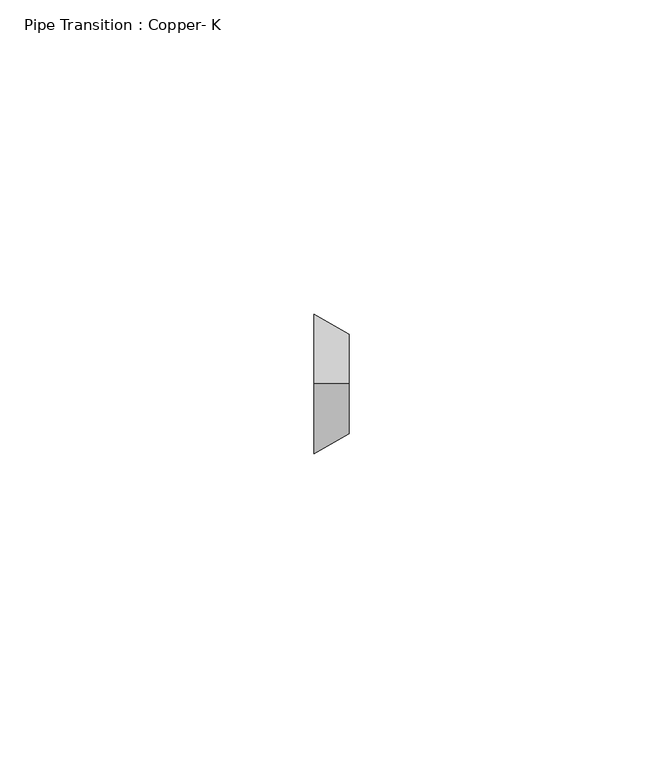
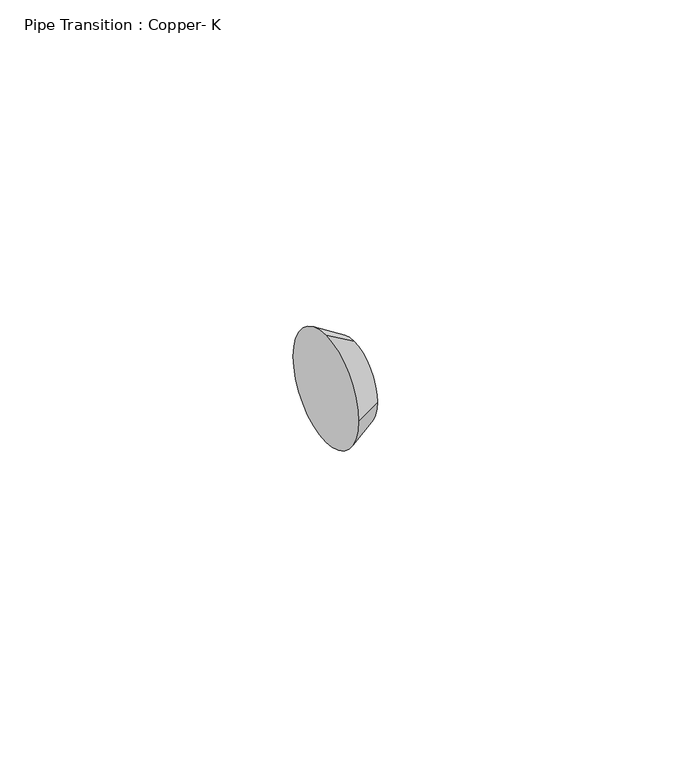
"""IFC4 building model written with IfcOpenShell, lengths in millimetres: pipe fitting geometry, Pipe Transition : Copper- K."""

import ifcopenshell
import ifcopenshell.guid

model = None  # the IFC model being written
_history = None  # IfcOwnerHistory: only IFC2X3 demands one
_inside = {}  # id of a spatial element -> (the spatial element, [elements in it])
_under = {}  # id of a project, library or spatial element -> (it, [spatial elements below it])
_declared = {}  # id of a project -> (the project, [libraries it declares])
_typed = {}  # id of a type object -> (the type object, [elements of that type])
_made_of = {}  # id of a material, layer set ... -> (it, [elements and type objects made of it])


def new_model(schema):
    """Start an empty IFC model of exactly this schema.

    Asked for "IFC4X3", IfcOpenShell would pick the latest addendum, in which some entities
    have other attributes; the version numbers below select the first issue.
    IFC2X3 requires an IfcOwnerHistory on every rooted entity: one is made here for all.
    """
    global model, _history
    if schema == "IFC4X3":
        model = ifcopenshell.file(schema_version=(4, 3, 0, 0))
    else:
        model = ifcopenshell.file(schema=schema)
    _inside.clear()
    _under.clear()
    _declared.clear()
    _typed.clear()
    _made_of.clear()
    _history = None
    if model.schema == "IFC2X3":
        org = make("IfcOrganization", Name="unknown")
        user = make(
            "IfcPersonAndOrganization",
            ThePerson=make("IfcPerson", FamilyName="unknown"),
            TheOrganization=org,
        )
        app = make(
            "IfcApplication",
            ApplicationDeveloper=org,
            Version="unknown",
            ApplicationFullName="unknown",
            ApplicationIdentifier="unknown",
        )
        _history = make(
            "IfcOwnerHistory",
            OwningUser=user,
            OwningApplication=app,
            ChangeAction="ADDED",
            CreationDate=0,
        )
    return model


def make(cls, **values):
    """One entity of the class cls with the attributes given. An attribute that is None is left unset."""
    return model.create_entity(
        cls, **{name: value for name, value in values.items() if value is not None}
    )


def rooted(cls, **values):
    """An entity with a GlobalId (a new one), such as an element, a storey or a relation."""
    return make(cls, GlobalId=ifcopenshell.guid.new(), OwnerHistory=_history, **values)


def si_unit(unit_type, name, prefix=None):
    """IfcSIUnit, for example si_unit("LENGTHUNIT", "METRE", prefix="MILLI")."""
    return make("IfcSIUnit", UnitType=unit_type, Prefix=prefix, Name=name)


def assignment(units):
    """IfcUnitAssignment: the units of a project."""
    return None if units is None else make("IfcUnitAssignment", Units=units)


def point(xyz):
    """IfcCartesianPoint."""
    return None if xyz is None else make("IfcCartesianPoint", Coordinates=xyz)


def direction(xyz):
    """IfcDirection."""
    return None if xyz is None else make("IfcDirection", DirectionRatios=xyz)


def frame(location, z_axis=None, x_axis=None):
    """IfcAxis2Placement3D, a coordinate frame: its origin and axes. An axis left out is left unset."""
    return make(
        "IfcAxis2Placement3D",
        Location=point(location),
        Axis=direction(z_axis),
        RefDirection=direction(x_axis),
    )


def origin():
    """The frame at (0, 0, 0) with its axes left unset."""
    return frame((0.0, 0.0, 0.0))


def place(relative_to, where):
    """IfcLocalPlacement: puts the frame where relative to a parent placement (None: the world)."""
    return make(
        "IfcLocalPlacement", PlacementRelTo=relative_to, RelativePlacement=where
    )


def context(
    kind, dimensions, precision=None, world=None, true_north=None, identifier=None
):
    """IfcGeometricRepresentationContext, for example the 3D "Model" context."""
    return make(
        "IfcGeometricRepresentationContext",
        ContextIdentifier=identifier,
        ContextType=kind,
        CoordinateSpaceDimension=dimensions,
        Precision=precision,
        WorldCoordinateSystem=world,
        TrueNorth=true_north,
    )


def project(units=None, contexts=None):
    """IfcProject with its units and contexts."""
    return rooted(
        "IfcProject",
        Name="project",
        RepresentationContexts=contexts,
        UnitsInContext=assignment(units),
    )


def spatial(cls, under=None, at=None, **own):
    """A site, building, storey or space (cls), placed at a placement, below another one or the project."""
    s = rooted(cls, ObjectPlacement=at, **own)
    if under is not None:
        _under.setdefault(under.id(), (under, []))[1].append(s)
    return s


def polyline(points):
    """IfcPolyline through the points."""
    return make("IfcPolyline", Points=[point(p) for p in points])


def circle_curve(where, radius):
    """IfcCircle in the frame where."""
    return make("IfcCircle", Position=where, Radius=radius)


def shape(context_of_items, identifier, shape_type, items):
    """IfcShapeRepresentation: the items that make up one representation, for example the "Body"."""
    return make(
        "IfcShapeRepresentation",
        ContextOfItems=context_of_items,
        RepresentationIdentifier=identifier,
        RepresentationType=shape_type,
        Items=items,
    )


def source(mapping_origin, context_of_items, identifier, shape_type, items):
    """IfcRepresentationMap: a shape defined once, which mapped items show again and again."""
    return make(
        "IfcRepresentationMap",
        MappingOrigin=mapping_origin,
        MappedRepresentation=shape(context_of_items, identifier, shape_type, items),
    )


def transform(
    local_origin,
    x_axis=None,
    y_axis=None,
    z_axis=None,
    scale=None,
    scale2=None,
    scale3=None,
    uniform=True,
):
    """IfcCartesianTransformationOperator3D, or its non-uniform kind. x_axis, y_axis, z_axis: its Axis1, 2, 3."""
    if uniform:
        return make(
            "IfcCartesianTransformationOperator3D",
            Axis1=direction(x_axis),
            Axis2=direction(y_axis),
            LocalOrigin=point(local_origin),
            Scale=scale,
            Axis3=direction(z_axis),
        )
    return make(
        "IfcCartesianTransformationOperator3DnonUniform",
        Axis1=direction(x_axis),
        Axis2=direction(y_axis),
        LocalOrigin=point(local_origin),
        Scale=scale,
        Axis3=direction(z_axis),
        Scale2=scale2,
        Scale3=scale3,
    )


def mapped(mapping_source, mapping_target):
    """IfcMappedItem: shows the shape of a source again, moved by a transform."""
    return make(
        "IfcMappedItem", MappingSource=mapping_source, MappingTarget=mapping_target
    )


def made_of(thing, what):
    """Note that an element or type object is made of a material, layer set ...; save() writes the relation."""
    if what is not None:
        _made_of.setdefault(what.id(), (what, []))[1].append(thing)
    return thing


def element(
    cls,
    number,
    at=None,
    inside=None,
    cuts=None,
    type_object=None,
    material=None,
    context=None,
    identifier="Body",
    shape_type=None,
    held_by="IfcProductDefinitionShape",
    body=None,
    shapes=None,
    **own,
):
    """One element of the class cls, such as IfcWall. Its Tag is "e" and its number.

    at: its placement. inside: the storey or other place that contains it. cuts: it is an
    opening in that element (IfcRelVoidsElement). A single representation is given by context,
    identifier, shape_type and body (its items); several are given by shapes. held_by: the class
    of the entity that holds the representations. save() writes the other relations.
    """
    e = rooted(cls, Tag="e%d" % number, ObjectPlacement=at, **own)
    if body is not None:
        shapes = [shape(context, identifier, shape_type, body)]
    if shapes is not None:
        e.Representation = make(held_by, Representations=shapes)
    if inside is not None:
        _inside.setdefault(inside.id(), (inside, []))[1].append(e)
    if cuts is not None:
        rooted(
            "IfcRelVoidsElement", RelatingBuildingElement=cuts, RelatedOpeningElement=e
        )
    if type_object is not None:
        _typed.setdefault(type_object.id(), (type_object, []))[1].append(e)
    return made_of(e, material)


def aggregate(whole, parts):
    """IfcRelAggregates: a whole, such as a stair, and the parts it consists of."""
    return rooted("IfcRelAggregates", RelatingObject=whole, RelatedObjects=parts)


def save(model, path):
    """Write the relations noted so far, then the file.

    IfcRelAggregates (storeys below a building ...), IfcRelContainedInSpatialStructure (elements
    in a storey), IfcRelDefinesByType, IfcRelAssociatesMaterial and IfcRelDeclares: one each for
    every whole, place, type object, material and project.
    """
    for whole, parts in _under.values():
        aggregate(whole, parts)
    for where, things in _inside.values():
        rooted(
            "IfcRelContainedInSpatialStructure",
            RelatedElements=things,
            RelatingStructure=where,
        )
    for kind, things in _typed.values():
        rooted("IfcRelDefinesByType", RelatedObjects=things, RelatingType=kind)
    for what, things in _made_of.values():
        rooted("IfcRelAssociatesMaterial", RelatedObjects=things, RelatingMaterial=what)
    for by, libraries in _declared.values():
        rooted("IfcRelDeclares", RelatingContext=by, RelatedDefinitions=libraries)
    model.write(path)


def plane_surface(at):
    """IfcPlane: the flat surface through the origin of the frame at, square to its z axis."""
    return make("IfcPlane", Position=at)


def revolved_surface(curve, axis_point, axis_direction):
    """IfcSurfaceOfRevolution: the curve turned about the line through axis_point along axis_direction."""
    return make(
        "IfcSurfaceOfRevolution",
        SweptCurve=make("IfcArbitraryOpenProfileDef", ProfileType="CURVE", Curve=curve),
        AxisPosition=make("IfcAxis1Placement", Location=point(axis_point), Axis=direction(axis_direction)),
    )


def advanced_brep(points, edges, surfaces, faces):
    """IfcAdvancedBrep: a solid bounded by faces that lie on surfaces and meet in shared edges.

    An edge is (start, end): straight between two places in points (the first is 0);
    or (start, end, curve); or (start, end, curve, False) where it runs against its curve.
    A face is (place in surfaces, loops), or (place, loops, False) where it looks against
    its surface's normal. A loop lists edges by number (the first is 1), with a minus sign
    where the edge is run from its end to its start. The first loop is the outer one.
    """
    corners = [point(p) for p in points]
    vertices = [make("IfcVertexPoint", VertexGeometry=c) for c in corners]
    made = []
    for start, end, *more in edges:
        made.append(
            make(
                "IfcEdgeCurve",
                EdgeStart=vertices[start],
                EdgeEnd=vertices[end],
                EdgeGeometry=more[0] if more else make("IfcPolyline", Points=[corners[start], corners[end]]),
                SameSense=more[1] if len(more) > 1 else True,
            )
        )
    hull = []
    for where, loops, *sense in faces:
        bounds = []
        for j, loop in enumerate(loops):
            ring = [make("IfcOrientedEdge", EdgeElement=made[abs(k) - 1], Orientation=k > 0) for k in loop]
            bounds.append(
                make(
                    "IfcFaceOuterBound" if j == 0 else "IfcFaceBound",
                    Bound=make("IfcEdgeLoop", EdgeList=ring),
                    Orientation=True,
                )
            )
        hull.append(make("IfcAdvancedFace", Bounds=bounds, FaceSurface=surfaces[where], SameSense=sense[0] if sense else True))
    return make("IfcAdvancedBrep", Outer=make("IfcClosedShell", CfsFaces=hull))


def pipe_transition_copper_k_859ff352(model_context):
    return source(origin(), model_context, "Body", "AdvancedBrep", [
        advanced_brep(
        [(5.55625, 0.0, 7.9375), (5.55625, -7.9375, 0.0), (5.55625, 0.0, -7.9375), (5.55625, 7.9375, 0.0), (0.0, 0.0, 11.1125), (0.0, 11.1125, 0.0), (0.0, 0.0, -11.1125), (0.0, -11.1125, 0.0)],
        [
            (0, 1, circle_curve(frame((5.55625, 0.0, 0.0), z_axis=(1.0, 0.0, 0.0), x_axis=(0.0, 0.0, 1.0)), 7.9375)),
            (1, 2, circle_curve(frame((5.55625, 0.0, 0.0), z_axis=(1.0, 0.0, 0.0), x_axis=(0.0, -1.0, 0.0)), 7.9375)),
            (2, 3, circle_curve(frame((5.55625, 0.0, 0.0), z_axis=(1.0, 0.0, 0.0), x_axis=(0.0, 0.0, -1.0)), 7.9375)),
            (3, 0, circle_curve(frame((5.55625, 0.0, 0.0), z_axis=(1.0, 0.0, 0.0), x_axis=(0.0, 1.0, 0.0)), 7.9375)),
            (4, 5, circle_curve(frame((0.0, 0.0, 0.0), z_axis=(-1.0, 0.0, 0.0), x_axis=(0.0, 1.0, 0.0)), 11.1125)),
            (5, 6, circle_curve(frame((0.0, 0.0, 0.0), z_axis=(-1.0, 0.0, 0.0), x_axis=(0.0, 0.0, -1.0)), 11.1125)),
            (6, 7, circle_curve(frame((0.0, 0.0, 0.0), z_axis=(-1.0, 0.0, 0.0), x_axis=(0.0, -1.0, 0.0)), 11.1125)),
            (7, 4, circle_curve(frame((0.0, 0.0, 0.0), z_axis=(-1.0, 0.0, 0.0), x_axis=(0.0, 0.0, 1.0)), 11.1125)),
            (7, 1),
            (0, 4),
            (6, 2),
            (5, 3),
        ],
        [
            plane_surface(frame((5.55625, 0.0, 0.0), z_axis=(1.0, 0.0, 0.0), x_axis=(0.0, -1.0, 0.0))),
            plane_surface(frame((0.0, 0.0, 0.0), z_axis=(-1.0, 0.0, 0.0), x_axis=(0.0, -1.0, 0.0))),
            revolved_surface(polyline([(5.556249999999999, 0.0, 7.937500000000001), (0.0, 0.0, 11.1125)]), (19.446875, 0.0, 0.0), (-1.0, 0.0, 0.0)),
            revolved_surface(polyline([(5.556249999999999, -7.937500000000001, 0.0), (0.0, -11.1125, 0.0)]), (19.446875, 0.0, 0.0), (-1.0, 0.0, 0.0)),
            revolved_surface(polyline([(5.556249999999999, 0.0, -7.937500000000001), (0.0, 0.0, -11.1125)]), (19.446875, 0.0, 0.0), (-1.0, 0.0, 0.0)),
            revolved_surface(polyline([(5.556249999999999, 7.937500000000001, 0.0), (0.0, 11.1125, 0.0)]), (19.446875, 0.0, 0.0), (-1.0, 0.0, 0.0)),
        ],
        [
            (0, [[1, 2, 3, 4]]),
            (1, [[5, 6, 7, 8]]),
            (2, [[-8, 9, -1, 10]]),
            (3, [[-7, 11, -2, -9]]),
            (4, [[-6, 12, -3, -11]]),
            (5, [[-5, -10, -4, -12]]),
        ],
    ),
        advanced_brep(
        [(5.55625, 0.0, 7.9375), (5.55625, -7.9375, 0.0), (5.55625, 0.0, -7.9375), (5.55625, 7.9375, 0.0), (0.0, 0.0, 11.1125), (0.0, 11.1125, 0.0), (0.0, 0.0, -11.1125), (0.0, -11.1125, 0.0)],
        [
            (0, 1, circle_curve(frame((5.55625, 0.0, 0.0), z_axis=(1.0, 0.0, -1.5068991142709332e-12), x_axis=(1.5068847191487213e-12, 0.0, 1.0)), 7.9375)),
            (1, 2, circle_curve(frame((5.55625, 0.0, 0.0), z_axis=(1.0, 0.0, -1.4459954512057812e-12), x_axis=(0.0, -1.0, 0.0)), 7.9375)),
            (2, 3, circle_curve(frame((5.55625, 0.0, 0.0), z_axis=(1.0, 0.0, -2.3477799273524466e-12), x_axis=(-2.347822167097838e-12, 0.0, -1.0)), 7.9375)),
            (3, 0, circle_curve(frame((5.55625, 0.0, 0.0), z_axis=(1.0, 0.0, 0.0), x_axis=(0.0, 1.0, 0.0)), 7.9375)),
            (4, 5, circle_curve(frame((0.0, 0.0, 0.0), z_axis=(-1.0, 0.0, 0.0), x_axis=(0.0, 1.0, 0.0)), 11.1125)),
            (5, 6, circle_curve(frame((0.0, 0.0, 0.0), z_axis=(-1.0, 0.0, 2.3477799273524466e-12), x_axis=(-2.347822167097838e-12, 0.0, -1.0)), 11.1125)),
            (6, 7, circle_curve(frame((0.0, 0.0, 0.0), z_axis=(-1.0, 0.0, 1.4459954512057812e-12), x_axis=(0.0, -1.0, 0.0)), 11.1125)),
            (7, 4, circle_curve(frame((0.0, 0.0, 0.0), z_axis=(-1.0, 0.0, 1.5068991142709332e-12), x_axis=(1.5068847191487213e-12, 0.0, 1.0)), 11.1125)),
            (7, 1),
            (0, 4),
            (6, 2),
            (5, 3),
        ],
        [
            plane_surface(frame((5.55625, 0.0, 0.0), z_axis=(1.0, 0.0, 0.0), x_axis=(0.0, -1.0, 0.0))),
            plane_surface(frame((0.0, 0.0, 0.0), z_axis=(-1.0, 0.0, 0.0), x_axis=(0.0, -1.0, 0.0))),
            revolved_surface(polyline([(5.556250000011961, 0.0, 7.9374999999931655), (0.0, 0.0, 11.1125)]), (19.446875, 0.0, 0.0), (-1.0, 0.0, 1.5068991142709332e-12)),
            revolved_surface(polyline([(5.556250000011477, -7.937499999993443, 0.0), (0.0, -11.1125, 0.0)]), (19.446875, 0.0, 0.0), (-1.0, 0.0, 1.4459954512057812e-12)),
            revolved_surface(polyline([(5.556249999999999, 0.0, -7.937500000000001), (-2.609112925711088e-11, 0.0, -11.11250000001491)]), (19.446875, 0.0, 0.0), (-1.0, 0.0, 2.3477799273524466e-12)),
            revolved_surface(polyline([(5.556249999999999, 7.937500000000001, 0.0), (0.0, 11.1125, 0.0)]), (19.446875, 0.0, 0.0), (-1.0, 0.0, 0.0)),
        ],
        [
            (0, [[1, 2, 3, 4]]),
            (1, [[5, 6, 7, 8]]),
            (2, [[-8, 9, -1, 10]]),
            (3, [[-7, 11, -2, -9]]),
            (4, [[-6, 12, -3, -11]]),
            (5, [[-5, -10, -4, -12]]),
        ],
    ),
    ])


if __name__ == "__main__":
    model = new_model("IFC4")
    model_context = context("Model", 3, world=origin())
    ifc_project = project(units=[si_unit("LENGTHUNIT", "METRE", prefix="MILLI")], contexts=[model_context])
    site = spatial("IfcSite", under=ifc_project)
    building = spatial("IfcBuilding", under=site)
    placement = place(None, origin())
    pipe_transition_copper_k_shape = pipe_transition_copper_k_859ff352(model_context)
    element("IfcPipeFitting", 1, ObjectType="Pipe Transition : Copper- K", at=placement, inside=building, context=model_context, shape_type="MappedRepresentation", body=[
        mapped(pipe_transition_copper_k_shape, transform((0.0, 0.0, 0.0), x_axis=(1.0, 0.0, 0.0), y_axis=(0.0, 1.0, 0.0), z_axis=(0.0, 0.0, 1.0))),
    ])
    save(model, "model.ifc")
